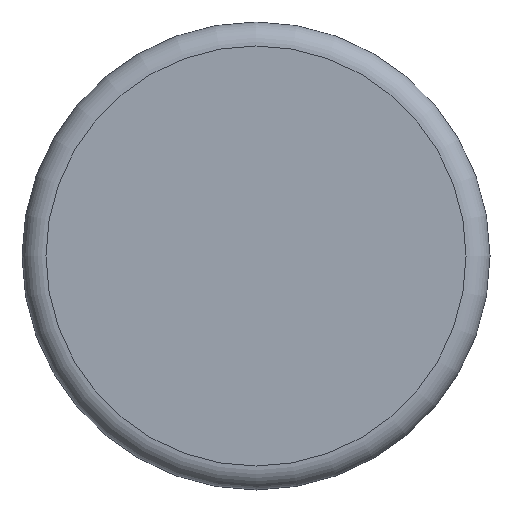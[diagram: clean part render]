
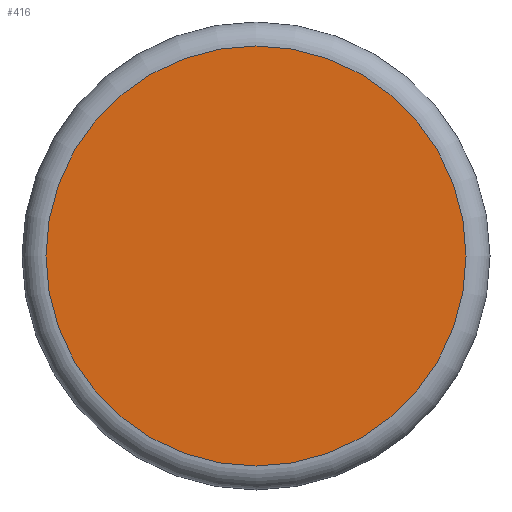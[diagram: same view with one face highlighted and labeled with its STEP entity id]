
A CAD part, front view. The second image highlights one B-rep face of the part: STEP entity #416.
In plain terms, the highlighted planar face has unit normal (0, -1, 0).
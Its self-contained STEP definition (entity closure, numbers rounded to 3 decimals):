
#29=PLANE('',#503);
#108=FACE_OUTER_BOUND('',#132,.T.);
#132=EDGE_LOOP('',(#318,#319));
#155=CIRCLE('',#479,19.742);
#156=CIRCLE('',#480,19.742);
#187=VERTEX_POINT('',#685);
#188=VERTEX_POINT('',#686);
#230=EDGE_CURVE('',#187,#188,#155,.T.);
#231=EDGE_CURVE('',#188,#187,#156,.T.);
#318=ORIENTED_EDGE('',*,*,#230,.T.);
#319=ORIENTED_EDGE('',*,*,#231,.T.);
#416=ADVANCED_FACE('',(#108),#29,.T.);
#479=AXIS2_PLACEMENT_3D('',#687,#543,#544);
#480=AXIS2_PLACEMENT_3D('',#688,#545,#546);
#503=AXIS2_PLACEMENT_3D('',#728,#593,#594);
#543=DIRECTION('center_axis',(0.,-1.,0.));
#544=DIRECTION('ref_axis',(0.,0.,-1.));
#545=DIRECTION('center_axis',(0.,-1.,0.));
#546=DIRECTION('ref_axis',(0.,0.,-1.));
#593=DIRECTION('center_axis',(0.,-1.,0.));
#594=DIRECTION('ref_axis',(0.,0.,-1.));
#685=CARTESIAN_POINT('',(0.,-2.,-19.742));
#686=CARTESIAN_POINT('',(0.,-2.,19.742));
#687=CARTESIAN_POINT('Origin',(0.,-2.,0.));
#688=CARTESIAN_POINT('Origin',(0.,-2.,0.));
#728=CARTESIAN_POINT('Origin',(0.,-2.,0.));
